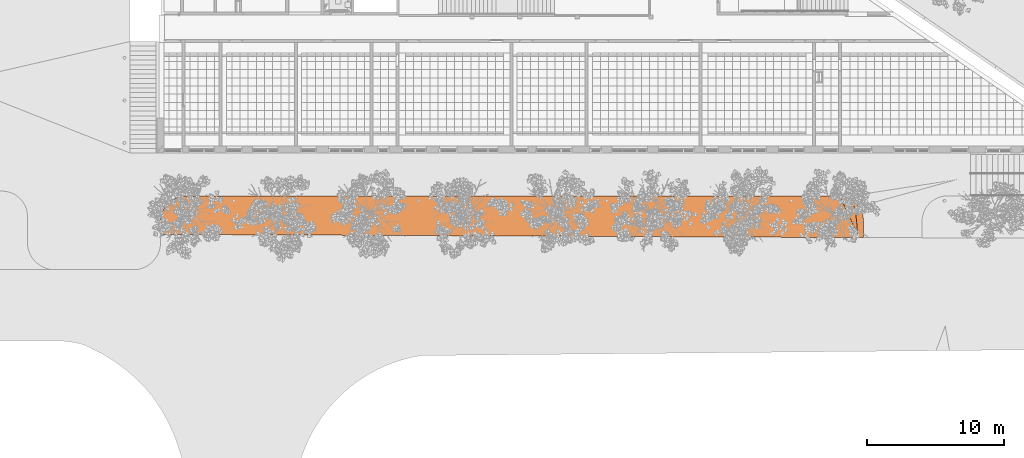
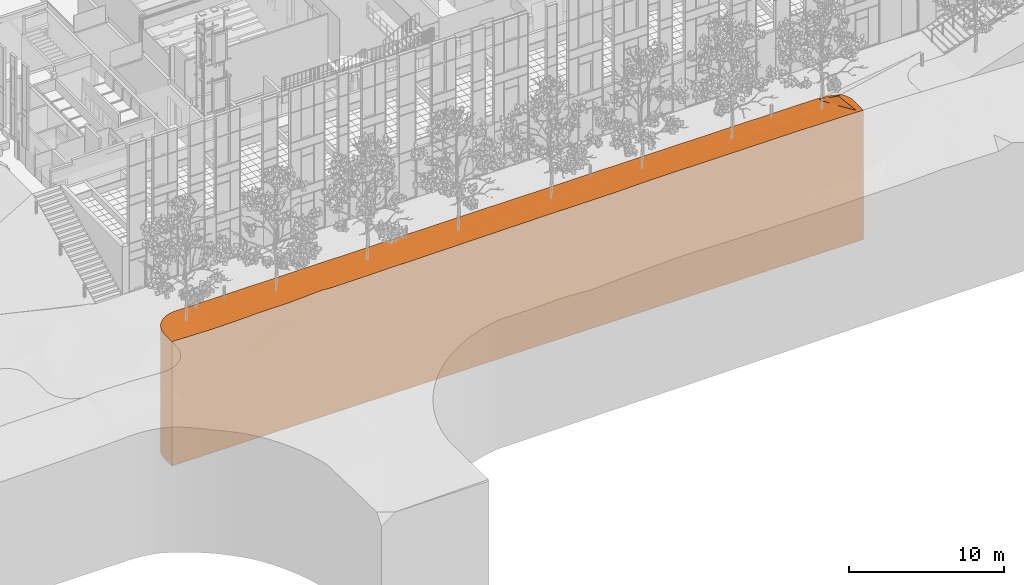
# One storey, part 233 of 246: 1 proxy.
"""IFC2X3 building model written with IfcOpenShell, lengths in millimetres."""

from ifc_helpers import new_model, entity, si_unit, converted_unit, derived_unit, money_unit, direction, frame, origin_with_axes, place, context, subcontext, project, spatial, faceted_brep, material, type_object, element, save


model = new_model("IFC2X3")

# Units and contexts
model_context = context("Model", 3, precision=0.01, world=origin_with_axes(), true_north=direction((0.0, 1.0)))
body_context = subcontext(model_context, "Body", "Model", "MODEL_VIEW")
ifc_project = project(units=[si_unit("LENGTHUNIT", "METRE", prefix="MILLI"), si_unit("AREAUNIT", "SQUARE_METRE"), si_unit("VOLUMEUNIT", "CUBIC_METRE"), converted_unit("PLANEANGLEUNIT", "DEGREE", entity("IfcPlaneAngleMeasure", 0.0174532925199), si_unit("PLANEANGLEUNIT", "RADIAN"), dimensions=[0, 0, 0, 0, 0, 0, 0]), si_unit("SOLIDANGLEUNIT", "STERADIAN"), money_unit("EUR"), converted_unit("TIMEUNIT", "Year", entity("IfcTimeMeasure", 31556926.0), si_unit("TIMEUNIT", "SECOND"), dimensions=[0, 0, 1, 0, 0, 0, 0]), si_unit("MASSUNIT", "GRAM", prefix="KILO"), si_unit("THERMODYNAMICTEMPERATUREUNIT", "DEGREE_CELSIUS"), si_unit("LUMINOUSINTENSITYUNIT", "LUMEN"), si_unit("ENERGYUNIT", "JOULE", prefix="MEGA"), derived_unit("THERMALCONDUCTANCEUNIT", [(si_unit("POWERUNIT", "WATT"), 1), (si_unit("LENGTHUNIT", "METRE"), -1), (si_unit("THERMODYNAMICTEMPERATUREUNIT", "KELVIN"), -1)]), derived_unit("SPECIFICHEATCAPACITYUNIT", [(si_unit("ENERGYUNIT", "JOULE"), 1), (si_unit("MASSUNIT", "GRAM", prefix="KILO"), -1), (si_unit("THERMODYNAMICTEMPERATUREUNIT", "KELVIN"), -1)]), derived_unit("MASSDENSITYUNIT", [(si_unit("MASSUNIT", "GRAM", prefix="KILO"), 1), (si_unit("VOLUMEUNIT", "CUBIC_METRE"), -1)])], contexts=[model_context])

# Site, building, storey
site_placement = place(None, origin_with_axes())
site = spatial("IfcSite", under=ifc_project, at=site_placement, Name="L.Koidula tn 11b", CompositionType="ELEMENT")
building_placement = place(site_placement, origin_with_axes())
building = spatial("IfcBuilding", under=site, at=building_placement, Name="Rakvere Riigigümnaasium", CompositionType="ELEMENT")
storey_placement = place(building_placement, origin_with_axes())
storey = spatial("IfcBuildingStorey", under=building, at=storey_placement, Name="1.korrus 0,00", CompositionType="ELEMENT", Elevation=0.0)

# Proxy
ifc_material = material(Name="Roheala")
building_element_proxy_type = type_object("IfcBuildingElementProxyType", Name="Roheala", PredefinedType="NOTDEFINED")
proxy_placement = place(storey_placement, frame((35234.4026815, -1214.04821053, -10000.0), z_axis=(0.0, 0.0, 1.0), x_axis=(1.0, 0.0, 0.0)))
element("IfcBuildingElementProxy", 1, at=proxy_placement, inside=storey, type_object=building_element_proxy_type, material=ifc_material, Name="Roheala", context=body_context, shape_type="Brep", body=[
    faceted_brep([(51472.8739876, 1313.93590605, 10200.0), (51475.3487985, 151.661044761, 10200.0), (51475.6717277, 0.0, 10206.487213), (51475.6717277, 0.0, 0.0), (51472.8739876, 1313.93590605, 0.0), (51468.679591, 1382.21420585, 10200.0), (51450.2286562, 1517.77835948, 10200.0), (51421.8163524, 1651.60966275, 10200.0), (51394.3679557, 1745.95737638, 10200.0), (50866.6485922, 2206.61754287, 10200.0), (51072.1611056, 210.66173588, 10200.0), (51084.3825745, 1.78207969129, 10208.8609675), (409.59819534, 232.574329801, 9804.97839269), (0.0, 234.439795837, 9813.08934488), (0.0, 234.439795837, 0.0), (51045.5906391, 1.95875292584, 10209.9739872), (50663.8462755, 3.69736201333, 10217.8319507), (47454.5319431, 18.3138006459, 10229.9929793), (46838.0900975, 21.1213113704, 10241.8534437), (46549.9558253, 22.4335844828, 10242.3269928), (46488.8986965, 22.7116618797, 10241.5137302), (40255.1663485, 51.1024509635, 10211.3399286), (40022.1858686, 52.1635327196, 10209.3957719), (39750.5355044, 53.4007318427, 10205.9170315), (39480.3060529, 54.6314595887, 10201.9375279), (38139.4186404, 60.7383710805, 10201.8553971), (37452.0329819, 63.8689869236, 10200.0), (37252.8696627, 64.7760524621, 10200.0), (35203.3283177, 74.1104436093, 10180.5930194), (32924.8489406, 84.4875056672, 10121.5852554), (27614.2162192, 108.674147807, 10100.0), (18324.9218414, 150.981129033, 10000.0), (17393.4117938, 155.223580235, 9994.98610976), (16348.1248267, 159.984214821, 9994.88672803), (13702.5247774, 172.033284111, 9950.0), (11614.0387172, 181.54504431, 9950.0), (11264.4091547, 183.137390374, 9993.85350566), (8830.18583561, 194.223769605, 9862.36299819), (8306.29188226, 196.609782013, 9850.0), (6340.66915101, 205.561975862, 9850.0), (5702.39692917, 208.468910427, 9803.14689444), (3100.60379053, 220.318466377, 9756.33160782), (2987.41560332, 220.83396845, 9755.58767328), (2730.85414756, 222.002446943, 9758.20161208), (1672.19030647, 226.824004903, 9777.27955892), (2.11082969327, 1244.01552323, 0.0), (10.7953513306, 1397.63222683, 0.0), (30.31648589, 1532.98162393, 0.0), (59.7802066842, 1666.51972018, 0.0), (99.0255930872, 1797.51717679, 0.0), (147.838300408, 1925.25853107, 0.0), (205.951730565, 2049.04610407, 0.0), (273.048488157, 2168.20381096, 0.0), (348.762113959, 2282.08085368, 0.0), (432.679086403, 2390.05527532, 0.0), (524.341080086, 2491.53735701, 0.0), (623.247468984, 2585.97283883, 0.0), (728.858060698, 2672.84594693, 0.0), (840.5960468, 2751.68221049, 0.0), (957.851153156, 2822.05105321, 0.0), (1079.98297304, 2883.56814485, 0.0), (1206.3244648, 2935.89750039, 0.0), (1336.18559501, 2978.75331505, 0.0), (1468.85710723, 3011.90152522, 0.0), (1603.61439565, 3035.16108688, 0.0), (1739.7214627, 3048.40496436, 0.0), (1808.07820074, 3049.98289428, 0.0), (49606.5555027, 3050.39714543, 0.0), (49752.1542663, 3047.48817643, 0.0), (49888.2152841, 3033.15373606, 0.0), (50022.8461082, 3008.8099905, 0.0), (50155.3114317, 2974.58989686, 0.0), (50284.887775, 2930.68035342, 0.0), (50410.8674369, 2877.32117887, 0.0), (50532.5623604, 2814.80380253, 0.0), (50649.3078899, 2743.46967263, 0.0), (50760.4664018, 2663.70839144, 0.0), (50865.4307869, 2575.95558743, 0.0), (50963.627766, 2480.69053598, 0.0), (51054.5210214, 2378.43354176, 0.0), (51137.6141256, 2269.74309703, 0.0), (51212.4532529, 2155.21283129, 0.0), (51278.6296579, 2035.46826915, 0.0), (51335.7819081, 1911.16341387, 0.0), (51383.5978576, 1782.97717548, 0.0), (51421.8163524, 1651.60966275, 0.0), (51450.2286562, 1517.77835948, 0.0), (51468.679591, 1382.21420585, 0.0), (51383.5978576, 1782.97717548, 10199.0273465), (51335.7819081, 1911.16341387, 10195.9829), (51278.6296579, 2035.46826915, 10193.362168), (51212.4532529, 2155.21283129, 10191.1794641), (51137.6141256, 2269.74309703, 10189.4467093), (51130.5423039, 2278.99343687, 10189.3383387), (50616.9156552, 2392.44659957, 10100.0), (50776.7587213, 840.036526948, 10100.0), (0.301753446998, 378.763592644, 9817.06216309), (2.11082969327, 1244.01552323, 9835.63519347), (46885.6497083, 433.156481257, 10200.0), (39529.3433282, 128.69411966, 10200.0), (38160.9888404, 131.717649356, 10200.0), (35869.4754471, 789.385899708, 10100.0), (33235.2123609, 595.20238043, 10100.0), (31696.3455638, 1308.35163562, 10000.0), (30157.4787666, 2021.50088988, 9950.0), (21313.567825, 1256.01159707, 9950.0), (11007.5715538, 1278.78383009, 9950.0), (5058.64911315, 2525.0315132, 9850.0), (4581.96027467, 3050.00693446, 9865.12486679), (3334.35868523, 3049.99612197, 9856.72613606), (1808.07820074, 3049.98289428, 9872.01889303), (1739.7214627, 3048.40496436, 9872.64547616), (1654.89609682, 3040.15104502, 9873.19021388), (227.38830681, 2087.11550355, 9852.25306992), (205.951730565, 2049.04610407, 9851.06015914), (151.478523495, 1933.01258001, 9847.31536978), (147.838300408, 1925.25853107, 9847.18601855), (141.879092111, 1909.66346618, 9846.9014755), (99.0255930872, 1797.51717679, 9845.42500756), (59.7802066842, 1666.51972018, 9843.46422831), (30.31648589, 1532.98162393, 9841.23516448), (10.7953513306, 1397.63222683, 9838.74999047), (273.048488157, 2168.20381096, 9854.00866006), (348.762113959, 2282.08085368, 9856.47808759), (432.679086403, 2390.05527532, 9858.82364956), (524.341080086, 2491.53735701, 9861.03253533), (623.247468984, 2585.97283883, 9863.09268073), (728.858060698, 2672.84594693, 9864.99283395), (840.5960468, 2751.68221049, 9866.72261703), (957.851153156, 2822.05105321, 9868.27258249), (1079.98297304, 2883.56814485, 9869.63426495), (1206.3244648, 2935.89750039, 9870.80022738), (1336.18559501, 2978.75331505, 9871.76410169), (1468.85710723, 3011.90152522, 9872.52062353), (1603.61439565, 3035.16108688, 9873.06566105), (48041.9456273, 3050.38358555, 9853.8850007), (49606.5555027, 3050.39714543, 9853.88472672), (18561.6135341, 3050.12809077, 9866.02010153), (25897.0091839, 3050.19166384, 9866.18343516), (28148.0996253, 3050.21117319, 9860.46238643), (28484.5694282, 3050.21408924, 9859.72157528), (43772.7872869, 3050.34658639, 9860.8715492), (49752.1542663, 3047.48817643, 9853.77217202), (49888.2152841, 3033.15373606, 9853.21783622), (50022.8461082, 3008.8099905, 9852.27647373), (50107.9829497, 2986.8163803, 9851.42600862), (50155.3114317, 2974.58989686, 9860.27330254), (50284.887775, 2930.68035342, 9889.08189884), (50410.8674369, 2877.32117887, 9921.77949995), (50497.4269205, 2832.85365585, 9947.67589378), (50532.5623604, 2814.80380253, 9952.90494654), (50649.3078899, 2743.46967263, 9972.81337724), (50760.4664018, 2663.70839144, 9994.41018624), (50763.1544816, 2661.46109067, 9995.00348627), (50865.4307869, 2575.95558743, 10040.0270385), (50963.627766, 2480.69053598, 10088.955772), (51054.5210214, 2378.43354176, 10140.339123), (50367.1827181, 2578.27565442, 10000.0), (50481.3563368, 1469.41131709, 10000.0), (47520.58319, 1013.08799609, 10100.0), (41799.011561, 776.283935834, 10100.0), (33577.9620538, 1447.05414913, 10000.0), (31286.4486607, 2104.72239855, 9950.0), (28618.6119693, 2734.65014602, 9850.0), (25670.6416554, 2479.4870481, 9850.0), (49867.7168439, 2949.9337669, 9850.0), (28994.9352672, 2762.39064797, 9850.0), (48608.0162593, 2719.05338715, 9850.0), (50117.449781, 2764.10471112, 9950.0), (50185.9539522, 2098.78610817, 9950.0), (48155.5166715, 1593.01951001, 10000.0), (44068.6797937, 1423.87375387, 10000.0), (46338.3480265, 2071.46357005, 9950.0), (49425.3836347, 2752.88253783, 9850.0), (49890.5515677, 2728.16089924, 9850.0), (48790.4501532, 2172.95102298, 9950.0)], [[[0, 1, 2, 3, 4]], [[1, 0, 5, 6, 7, 8, 9, 10]], [[11, 2, 1, 10]], [[12, 13, 14, 3, 2, 11, 15, 16, 17, 18, 19, 20, 21, 22, 23, 24, 25, 26, 27, 28, 29, 30, 31, 32, 33, 34, 35, 36, 37, 38, 39, 40, 41, 42, 43, 44]], [[4, 3, 14, 45, 46, 47, 48, 49, 50, 51, 52, 53, 54, 55, 56, 57, 58, 59, 60, 61, 62, 63, 64, 65, 66, 67, 68, 69, 70, 71, 72, 73, 74, 75, 76, 77, 78, 79, 80, 81, 82, 83, 84, 85, 86, 87]], [[5, 0, 4, 87]], [[6, 5, 87, 86]], [[7, 6, 86, 85]], [[8, 7, 85, 84, 88]], [[8, 88, 89, 90, 91, 92, 93, 9]], [[94, 95, 10, 9]], [[15, 11, 10]], [[13, 12, 96]], [[96, 97, 45, 14, 13]], [[16, 15, 10]], [[17, 16, 10, 98]], [[18, 17, 98]], [[19, 18, 98]], [[20, 19, 98]], [[21, 20, 98, 99]], [[22, 21, 99]], [[23, 22, 99]], [[24, 23, 99]], [[25, 24, 99, 100]], [[26, 25, 100]], [[27, 26, 100]], [[28, 27, 100, 101, 102]], [[29, 28, 102]], [[30, 29, 102]], [[31, 30, 102, 103]], [[32, 31, 103, 104, 105]], [[33, 32, 105, 106]], [[34, 33, 106]], [[35, 34, 106]], [[36, 35, 106]], [[37, 36, 106]], [[38, 37, 106, 107]], [[39, 38, 107]], [[40, 39, 107]], [[41, 40, 107]], [[108, 109, 42, 41, 107]], [[109, 110, 111, 112, 113, 114, 115, 43, 42]], [[44, 43, 115, 116, 117]], [[12, 44, 117, 118, 119, 120, 121, 97, 96]], [[97, 121, 46, 45]], [[121, 120, 47, 46]], [[120, 119, 48, 47]], [[119, 118, 49, 48]], [[117, 116, 50, 49, 118]], [[115, 114, 51, 50, 116]], [[113, 122, 52, 51, 114]], [[122, 123, 53, 52]], [[123, 124, 54, 53]], [[124, 125, 55, 54]], [[125, 126, 56, 55]], [[126, 127, 57, 56]], [[127, 128, 58, 57]], [[128, 129, 59, 58]], [[129, 130, 60, 59]], [[130, 131, 61, 60]], [[131, 132, 62, 61]], [[132, 133, 63, 62]], [[133, 134, 64, 63]], [[112, 111, 65, 64, 134]], [[111, 110, 66, 65]], [[135, 136, 67, 66, 110, 109, 108, 137, 138, 139, 140, 141]], [[136, 142, 68, 67]], [[142, 143, 69, 68]], [[143, 144, 70, 69]], [[145, 146, 71, 70, 144]], [[146, 147, 72, 71]], [[147, 148, 73, 72]], [[149, 150, 74, 73, 148]], [[150, 151, 75, 74]], [[151, 152, 76, 75]], [[153, 154, 77, 76, 152]], [[154, 155, 78, 77]], [[155, 156, 79, 78]], [[93, 92, 80, 79, 156]], [[92, 91, 81, 80]], [[91, 90, 82, 81]], [[90, 89, 83, 82]], [[89, 88, 84, 83]], [[93, 156, 155, 154, 153, 157, 94, 9]], [[157, 158, 95, 94]], [[159, 98, 10, 95]], [[159, 160, 99, 98]], [[101, 100, 99, 160]], [[101, 161, 103, 102]], [[161, 162, 104, 103]], [[163, 164, 105, 104]], [[105, 164, 107, 106]], [[137, 108, 107, 164]], [[112, 134, 133, 132, 131, 130, 129, 128, 127, 126, 125, 124, 123, 122, 113]], [[145, 144, 143, 142, 136, 135, 165]], [[138, 137, 164]], [[139, 138, 164, 163]], [[140, 139, 163, 166]], [[141, 140, 166, 167]], [[135, 141, 167, 165]], [[149, 148, 147, 146, 145, 165, 168]], [[153, 152, 151, 150, 149, 168, 157]], [[158, 157, 168, 169]], [[95, 158, 170, 159]], [[170, 171, 160, 159]], [[160, 171, 161, 101]], [[172, 162, 161, 171]], [[104, 162, 166, 163]], [[166, 162, 172, 167]], [[167, 173, 174, 165]], [[169, 168, 165, 174]], [[169, 175, 170, 158]], [[171, 170, 175, 172]], [[173, 167, 172, 175]], [[174, 173, 175, 169]]]),
])

save(model, "model.ifc")
